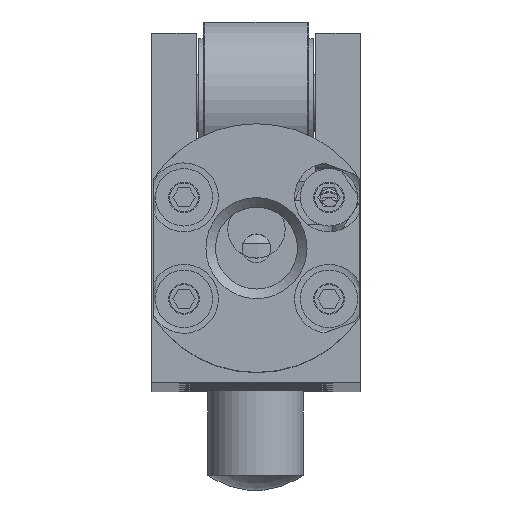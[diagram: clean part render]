
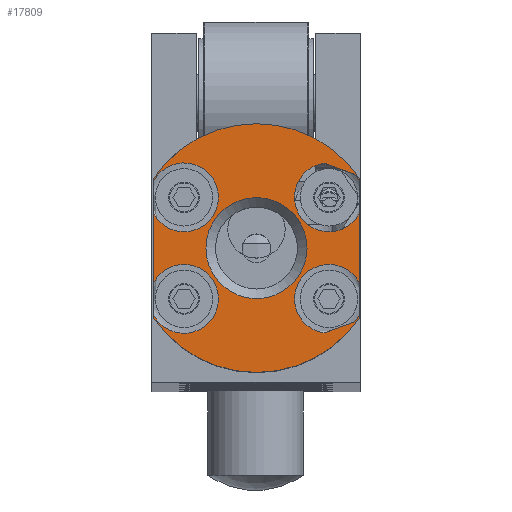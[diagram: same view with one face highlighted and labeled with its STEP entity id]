
A CAD part, top view. The second image highlights one B-rep face of the part: STEP entity #17809.
In plain terms, the highlighted planar face has unit normal (0, 0, 1).
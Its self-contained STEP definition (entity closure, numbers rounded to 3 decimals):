
#589=FACE_BOUND('',#3062,.T.);
#1085=PLANE('',#20218);
#1953=FACE_OUTER_BOUND('',#3061,.T.);
#3061=EDGE_LOOP('',(#15309,#15310,#15311,#15312,#15313,#15314,#15315,#15316,
#15317,#15318,#15319,#15320,#15321,#15322,#15323,#15324));
#3062=EDGE_LOOP('',(#15325));
#3763=LINE('',#33358,#4458);
#3764=LINE('',#33360,#4459);
#3765=LINE('',#33365,#4460);
#3772=LINE('',#33414,#4467);
#3775=LINE('',#33435,#4470);
#3776=LINE('',#33436,#4471);
#3777=LINE('',#33437,#4472);
#3780=LINE('',#33451,#4475);
#4458=VECTOR('',#25635,10.);
#4459=VECTOR('',#25636,10.);
#4460=VECTOR('',#25637,10.);
#4467=VECTOR('',#25676,10.);
#4470=VECTOR('',#25693,10.);
#4471=VECTOR('',#25694,10.);
#4472=VECTOR('',#25695,10.);
#4475=VECTOR('',#25712,10.);
#5978=CIRCLE('',#20179,13.);
#5983=CIRCLE('',#20188,13.);
#5989=CIRCLE('',#20199,5.283);
#5992=CIRCLE('',#20204,3.6);
#5995=CIRCLE('',#20210,3.6);
#5996=CIRCLE('',#20211,3.6);
#5999=CIRCLE('',#20217,3.6);
#6000=CIRCLE('',#20219,3.6);
#6001=CIRCLE('',#20220,3.6);
#7785=VERTEX_POINT('',#33330);
#7786=VERTEX_POINT('',#33332);
#7790=VERTEX_POINT('',#33347);
#7791=VERTEX_POINT('',#33349);
#7792=VERTEX_POINT('',#33353);
#7793=VERTEX_POINT('',#33354);
#7794=VERTEX_POINT('',#33359);
#7795=VERTEX_POINT('',#33361);
#7801=VERTEX_POINT('',#33383);
#7804=VERTEX_POINT('',#33393);
#7806=VERTEX_POINT('',#33398);
#7807=VERTEX_POINT('',#33405);
#7809=VERTEX_POINT('',#33410);
#7812=VERTEX_POINT('',#33426);
#7814=VERTEX_POINT('',#33431);
#7817=VERTEX_POINT('',#33448);
#7818=VERTEX_POINT('',#33450);
#10307=EDGE_CURVE('',#7786,#7785,#5978,.T.);
#10314=EDGE_CURVE('',#7790,#7791,#5983,.T.);
#10317=EDGE_CURVE('',#7786,#7793,#3763,.T.);
#10318=EDGE_CURVE('',#7794,#7791,#3764,.T.);
#10320=EDGE_CURVE('',#7792,#7795,#3765,.T.);
#10329=EDGE_CURVE('',#7801,#7801,#5989,.T.);
#10335=EDGE_CURVE('',#7806,#7804,#5992,.T.);
#10340=EDGE_CURVE('',#7807,#7809,#3772,.T.);
#10344=EDGE_CURVE('',#7809,#7794,#5995,.T.);
#10346=EDGE_CURVE('',#7795,#7807,#5996,.T.);
#10349=EDGE_CURVE('',#7804,#7814,#3775,.T.);
#10350=EDGE_CURVE('',#7790,#7806,#3776,.T.);
#10351=EDGE_CURVE('',#7812,#7785,#3777,.T.);
#10355=EDGE_CURVE('',#7814,#7812,#5999,.T.);
#10357=EDGE_CURVE('',#7793,#7817,#6000,.T.);
#10358=EDGE_CURVE('',#7817,#7818,#3780,.T.);
#10359=EDGE_CURVE('',#7818,#7792,#6001,.T.);
#15309=ORIENTED_EDGE('',*,*,#10357,.T.);
#15310=ORIENTED_EDGE('',*,*,#10358,.T.);
#15311=ORIENTED_EDGE('',*,*,#10359,.T.);
#15312=ORIENTED_EDGE('',*,*,#10320,.T.);
#15313=ORIENTED_EDGE('',*,*,#10346,.T.);
#15314=ORIENTED_EDGE('',*,*,#10340,.T.);
#15315=ORIENTED_EDGE('',*,*,#10344,.T.);
#15316=ORIENTED_EDGE('',*,*,#10318,.T.);
#15317=ORIENTED_EDGE('',*,*,#10314,.F.);
#15318=ORIENTED_EDGE('',*,*,#10350,.T.);
#15319=ORIENTED_EDGE('',*,*,#10335,.T.);
#15320=ORIENTED_EDGE('',*,*,#10349,.T.);
#15321=ORIENTED_EDGE('',*,*,#10355,.T.);
#15322=ORIENTED_EDGE('',*,*,#10351,.T.);
#15323=ORIENTED_EDGE('',*,*,#10307,.F.);
#15324=ORIENTED_EDGE('',*,*,#10317,.T.);
#15325=ORIENTED_EDGE('',*,*,#10329,.F.);
#17809=ADVANCED_FACE('',(#1953,#589),#1085,.T.);
#20179=AXIS2_PLACEMENT_3D('',#33334,#25610,#25611);
#20188=AXIS2_PLACEMENT_3D('',#33350,#25630,#25631);
#20199=AXIS2_PLACEMENT_3D('',#33384,#25659,#25660);
#20204=AXIS2_PLACEMENT_3D('',#33399,#25671,#25672);
#20210=AXIS2_PLACEMENT_3D('',#33422,#25686,#25687);
#20211=AXIS2_PLACEMENT_3D('',#33424,#25689,#25690);
#20217=AXIS2_PLACEMENT_3D('',#33445,#25705,#25706);
#20218=AXIS2_PLACEMENT_3D('',#33447,#25708,#25709);
#20219=AXIS2_PLACEMENT_3D('',#33449,#25710,#25711);
#20220=AXIS2_PLACEMENT_3D('',#33452,#25713,#25714);
#25610=DIRECTION('center_axis',(0.,0.,
-1.));
#25611=DIRECTION('ref_axis',(0.,1.,0.));
#25630=DIRECTION('center_axis',(0.,0.,
-1.));
#25631=DIRECTION('ref_axis',(0.,1.,0.));
#25635=DIRECTION('',(0.,1.,0.));
#25636=DIRECTION('',(0.,1.,0.));
#25637=DIRECTION('',(0.,1.,0.));
#25659=DIRECTION('center_axis',(0.,0.,
1.));
#25660=DIRECTION('ref_axis',(-1.,0.,0.));
#25671=DIRECTION('center_axis',(0.,0.,
-1.));
#25672=DIRECTION('ref_axis',(1.,0.,0.));
#25676=DIRECTION('',(0.94,-0.342,0.));
#25686=DIRECTION('center_axis',(0.,0.,
-1.));
#25687=DIRECTION('ref_axis',(-0.342,-0.94,0.));
#25689=DIRECTION('center_axis',(0.,0.,
-1.));
#25690=DIRECTION('ref_axis',(-0.342,-0.94,0.));
#25693=DIRECTION('',(0.,-1.,0.));
#25694=DIRECTION('',(0.,-1.,0.));
#25695=DIRECTION('',(0.,-1.,0.));
#25705=DIRECTION('center_axis',(0.,0.,
-1.));
#25706=DIRECTION('ref_axis',(1.,0.,0.));
#25708=DIRECTION('center_axis',(0.,0.,
1.));
#25709=DIRECTION('ref_axis',(1.,0.,0.));
#25710=DIRECTION('center_axis',(0.,0.,
-1.));
#25711=DIRECTION('ref_axis',(-0.342,0.94,0.));
#25712=DIRECTION('',(-0.94,-0.342,0.));
#25713=DIRECTION('center_axis',(0.,0.,
-1.));
#25714=DIRECTION('ref_axis',(-0.342,0.94,0.));
#33330=CARTESIAN_POINT('',(-10.7,-11.56,296.));
#33332=CARTESIAN_POINT('',(10.8,-11.56,296.));
#33334=CARTESIAN_POINT('Origin',(0.05,-4.25,296.));
#33347=CARTESIAN_POINT('',(-10.7,3.06,296.));
#33349=CARTESIAN_POINT('',(10.8,3.06,296.));
#33350=CARTESIAN_POINT('Origin',(0.05,-4.25,296.));
#33353=CARTESIAN_POINT('',(10.8,-7.855,296.));
#33354=CARTESIAN_POINT('',(10.8,-11.256,296.));
#33358=CARTESIAN_POINT('',(10.8,-4.655,296.));
#33359=CARTESIAN_POINT('',(10.8,2.756,296.));
#33360=CARTESIAN_POINT('',(10.8,-4.655,296.));
#33361=CARTESIAN_POINT('',(10.8,-0.645,296.));
#33365=CARTESIAN_POINT('',(10.8,-4.655,296.));
#33383=CARTESIAN_POINT('',(5.333,-4.25,296.));
#33384=CARTESIAN_POINT('Origin',(0.05,-4.25,296.));
#33393=CARTESIAN_POINT('',(-10.7,-0.645,296.));
#33398=CARTESIAN_POINT('',(-10.7,2.756,296.));
#33399=CARTESIAN_POINT('Origin',(-7.527,1.056,296.));
#33405=CARTESIAN_POINT('',(7.114,4.619,296.));
#33410=CARTESIAN_POINT('',(10.311,3.455,296.));
#33414=CARTESIAN_POINT('',(6.117,4.982,296.));
#33422=CARTESIAN_POINT('Origin',(7.627,1.056,296.));
#33424=CARTESIAN_POINT('Origin',(7.627,1.056,296.));
#33426=CARTESIAN_POINT('',(-10.7,-11.256,296.));
#33431=CARTESIAN_POINT('',(-10.7,-7.855,296.));
#33435=CARTESIAN_POINT('',(-10.7,2.655,296.));
#33436=CARTESIAN_POINT('',(-10.7,2.655,296.));
#33437=CARTESIAN_POINT('',(-10.7,2.655,296.));
#33445=CARTESIAN_POINT('Origin',(-7.527,-9.556,296.));
#33447=CARTESIAN_POINT('Origin',(0.05,2.25,296.));
#33448=CARTESIAN_POINT('',(10.311,-11.955,296.));
#33449=CARTESIAN_POINT('Origin',(7.627,-9.556,296.));
#33450=CARTESIAN_POINT('',(7.114,-13.119,296.));
#33451=CARTESIAN_POINT('',(8.206,-12.721,296.));
#33452=CARTESIAN_POINT('Origin',(7.627,-9.556,296.));
